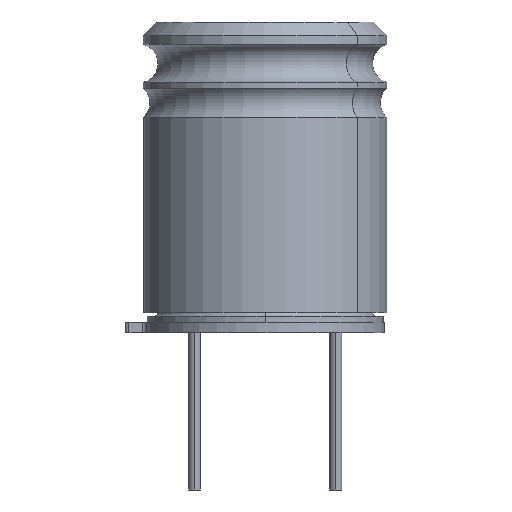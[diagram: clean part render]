
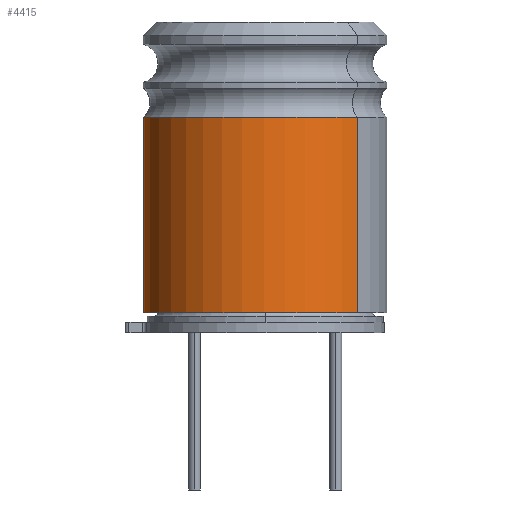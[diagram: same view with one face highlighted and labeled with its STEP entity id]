
A CAD part, left-side view. The second image highlights one B-rep face of the part: STEP entity #4415.
In plain terms, the highlighted cylindrical face has radius 4.65 mm (diameter 9.3 mm), a partial arc.
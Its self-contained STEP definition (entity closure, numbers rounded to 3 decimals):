
#3376=CARTESIAN_POINT('',(0.,0.,0.));
#3377=DIRECTION('',(0.,-1.,0.));
#3378=DIRECTION('',(-1.,0.,0.));
#3379=AXIS2_PLACEMENT_3D('',#3376,#3377,#3378);
#3392=CARTESIAN_POINT('',(0.,7.461,0.));
#3393=DIRECTION('',(0.,-1.,0.));
#3394=DIRECTION('',(-1.,0.,0.));
#3395=AXIS2_PLACEMENT_3D('',#3392,#3393,#3394);
#3400=DIRECTION('',(0.,-1.,0.));
#3401=VECTOR('',#3400,7.461);
#3402=CARTESIAN_POINT('',(-4.65,7.461,0.));
#3403=LINE('',#3402,#3401);
#3415=DIRECTION('',(0.,-1.,0.));
#3416=VECTOR('',#3415,7.461);
#3417=CARTESIAN_POINT('',(4.65,7.461,0.));
#3418=LINE('',#3417,#3416);
#4295=CARTESIAN_POINT('',(-4.65,7.461,0.));
#4296=VERTEX_POINT('',#4295);
#4297=CARTESIAN_POINT('',(-4.65,0.,0.));
#4298=VERTEX_POINT('',#4297);
#4313=CARTESIAN_POINT('',(4.65,7.461,0.));
#4314=VERTEX_POINT('',#4313);
#4315=CARTESIAN_POINT('',(4.65,0.,0.));
#4316=VERTEX_POINT('',#4315);
#4401=CARTESIAN_POINT('',(0.,11.655,0.));
#4402=DIRECTION('',(0.,-1.,0.));
#4403=DIRECTION('',(-1.,0.,0.));
#4404=AXIS2_PLACEMENT_3D('',#4401,#4402,#4403);
#4405=CYLINDRICAL_SURFACE('',#4404,4.65);
#4407=ORIENTED_EDGE('',*,*,#4406,.T.);
#4408=ORIENTED_EDGE('',*,*,#4390,.T.);
#4410=ORIENTED_EDGE('',*,*,#4409,.F.);
#4412=ORIENTED_EDGE('',*,*,#4411,.F.);
#4413=EDGE_LOOP('',(#4407,#4408,#4410,#4412));
#4414=FACE_OUTER_BOUND('',#4413,.F.);
#3380=CIRCLE('',#3379,4.65);
#3396=CIRCLE('',#3395,4.65);
#4390=EDGE_CURVE('',#4298,#4316,#3380,.T.);
#4406=EDGE_CURVE('',#4296,#4298,#3403,.T.);
#4409=EDGE_CURVE('',#4314,#4316,#3418,.T.);
#4411=EDGE_CURVE('',#4296,#4314,#3396,.T.);
#4415=ADVANCED_FACE('',(#4414),#4405,.T.);
